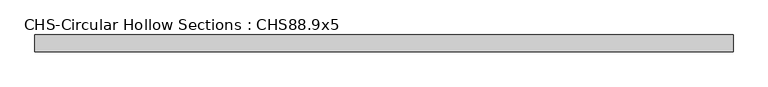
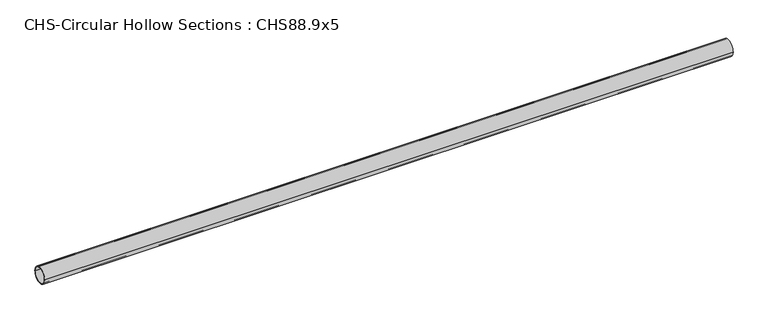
"""IFC4 building model written with IfcOpenShell, lengths in millimetres: beam geometry, CHS-Circular Hollow Sections : CHS88.9x5."""

import ifcopenshell
import ifcopenshell.guid

model = None  # the IFC model being written
_history = None  # IfcOwnerHistory: only IFC2X3 demands one
_inside = {}  # id of a spatial element -> (the spatial element, [elements in it])
_under = {}  # id of a project, library or spatial element -> (it, [spatial elements below it])
_declared = {}  # id of a project -> (the project, [libraries it declares])
_typed = {}  # id of a type object -> (the type object, [elements of that type])
_made_of = {}  # id of a material, layer set ... -> (it, [elements and type objects made of it])


def new_model(schema):
    """Start an empty IFC model of exactly this schema.

    Asked for "IFC4X3", IfcOpenShell would pick the latest addendum, in which some entities
    have other attributes; the version numbers below select the first issue.
    IFC2X3 requires an IfcOwnerHistory on every rooted entity: one is made here for all.
    """
    global model, _history
    if schema == "IFC4X3":
        model = ifcopenshell.file(schema_version=(4, 3, 0, 0))
    else:
        model = ifcopenshell.file(schema=schema)
    _inside.clear()
    _under.clear()
    _declared.clear()
    _typed.clear()
    _made_of.clear()
    _history = None
    if model.schema == "IFC2X3":
        org = make("IfcOrganization", Name="unknown")
        user = make(
            "IfcPersonAndOrganization",
            ThePerson=make("IfcPerson", FamilyName="unknown"),
            TheOrganization=org,
        )
        app = make(
            "IfcApplication",
            ApplicationDeveloper=org,
            Version="unknown",
            ApplicationFullName="unknown",
            ApplicationIdentifier="unknown",
        )
        _history = make(
            "IfcOwnerHistory",
            OwningUser=user,
            OwningApplication=app,
            ChangeAction="ADDED",
            CreationDate=0,
        )
    return model


def make(cls, **values):
    """One entity of the class cls with the attributes given. An attribute that is None is left unset."""
    return model.create_entity(
        cls, **{name: value for name, value in values.items() if value is not None}
    )


def rooted(cls, **values):
    """An entity with a GlobalId (a new one), such as an element, a storey or a relation."""
    return make(cls, GlobalId=ifcopenshell.guid.new(), OwnerHistory=_history, **values)


def si_unit(unit_type, name, prefix=None):
    """IfcSIUnit, for example si_unit("LENGTHUNIT", "METRE", prefix="MILLI")."""
    return make("IfcSIUnit", UnitType=unit_type, Prefix=prefix, Name=name)


def assignment(units):
    """IfcUnitAssignment: the units of a project."""
    return None if units is None else make("IfcUnitAssignment", Units=units)


def point(xyz):
    """IfcCartesianPoint."""
    return None if xyz is None else make("IfcCartesianPoint", Coordinates=xyz)


def direction(xyz):
    """IfcDirection."""
    return None if xyz is None else make("IfcDirection", DirectionRatios=xyz)


def frame(location, z_axis=None, x_axis=None):
    """IfcAxis2Placement3D, a coordinate frame: its origin and axes. An axis left out is left unset."""
    return make(
        "IfcAxis2Placement3D",
        Location=point(location),
        Axis=direction(z_axis),
        RefDirection=direction(x_axis),
    )


def frame_2d(location, x_axis=None):
    """IfcAxis2Placement2D, a coordinate frame in the plane: its origin and x axis."""
    return make(
        "IfcAxis2Placement2D", Location=point(location), RefDirection=direction(x_axis)
    )


def origin():
    """The frame at (0, 0, 0) with its axes left unset."""
    return frame((0.0, 0.0, 0.0))


def origin_2d():
    """The frame at (0, 0) in the plane with its x axis left unset."""
    return frame_2d((0.0, 0.0))


def place(relative_to, where):
    """IfcLocalPlacement: puts the frame where relative to a parent placement (None: the world)."""
    return make(
        "IfcLocalPlacement", PlacementRelTo=relative_to, RelativePlacement=where
    )


def context(
    kind, dimensions, precision=None, world=None, true_north=None, identifier=None
):
    """IfcGeometricRepresentationContext, for example the 3D "Model" context."""
    return make(
        "IfcGeometricRepresentationContext",
        ContextIdentifier=identifier,
        ContextType=kind,
        CoordinateSpaceDimension=dimensions,
        Precision=precision,
        WorldCoordinateSystem=world,
        TrueNorth=true_north,
    )


def project(units=None, contexts=None):
    """IfcProject with its units and contexts."""
    return rooted(
        "IfcProject",
        Name="project",
        RepresentationContexts=contexts,
        UnitsInContext=assignment(units),
    )


def spatial(cls, under=None, at=None, **own):
    """A site, building, storey or space (cls), placed at a placement, below another one or the project."""
    s = rooted(cls, ObjectPlacement=at, **own)
    if under is not None:
        _under.setdefault(under.id(), (under, []))[1].append(s)
    return s


def circle_curve(where, radius):
    """IfcCircle in the frame where."""
    return make("IfcCircle", Position=where, Radius=radius)


def trimmed(basis, trim1, trim2, sense, master):
    """IfcTrimmedCurve: the piece of a basis curve between two trims."""
    return make(
        "IfcTrimmedCurve",
        BasisCurve=basis,
        Trim1=trim1,
        Trim2=trim2,
        SenseAgreement=sense,
        MasterRepresentation=master,
    )


def segment(curve, same_sense, transition):
    """IfcCompositeCurveSegment."""
    return make(
        "IfcCompositeCurveSegment",
        Transition=transition,
        SameSense=same_sense,
        ParentCurve=curve,
    )


def composite_curve(segments, self_intersect=None):
    """IfcCompositeCurve: segments joined end to end."""
    return make("IfcCompositeCurve", Segments=segments, SelfIntersect=self_intersect)


def outline(outer, holes=None, kind="AREA"):
    """IfcArbitraryClosedProfileDef: a profile drawn as a closed curve; with holes, ...WithVoids."""
    if holes is None:
        return make("IfcArbitraryClosedProfileDef", ProfileType=kind, OuterCurve=outer)
    return make(
        "IfcArbitraryProfileDefWithVoids",
        ProfileType=kind,
        OuterCurve=outer,
        InnerCurves=holes,
    )


def extrude(swept, where, along, depth):
    """IfcExtrudedAreaSolid: the profile swept, set in the frame where, extruded along a direction by depth."""
    return make(
        "IfcExtrudedAreaSolid",
        SweptArea=swept,
        Position=where,
        ExtrudedDirection=direction(along),
        Depth=depth,
    )


def shape(context_of_items, identifier, shape_type, items):
    """IfcShapeRepresentation: the items that make up one representation, for example the "Body"."""
    return make(
        "IfcShapeRepresentation",
        ContextOfItems=context_of_items,
        RepresentationIdentifier=identifier,
        RepresentationType=shape_type,
        Items=items,
    )


def source(mapping_origin, context_of_items, identifier, shape_type, items):
    """IfcRepresentationMap: a shape defined once, which mapped items show again and again."""
    return make(
        "IfcRepresentationMap",
        MappingOrigin=mapping_origin,
        MappedRepresentation=shape(context_of_items, identifier, shape_type, items),
    )


def transform(
    local_origin,
    x_axis=None,
    y_axis=None,
    z_axis=None,
    scale=None,
    scale2=None,
    scale3=None,
    uniform=True,
):
    """IfcCartesianTransformationOperator3D, or its non-uniform kind. x_axis, y_axis, z_axis: its Axis1, 2, 3."""
    if uniform:
        return make(
            "IfcCartesianTransformationOperator3D",
            Axis1=direction(x_axis),
            Axis2=direction(y_axis),
            LocalOrigin=point(local_origin),
            Scale=scale,
            Axis3=direction(z_axis),
        )
    return make(
        "IfcCartesianTransformationOperator3DnonUniform",
        Axis1=direction(x_axis),
        Axis2=direction(y_axis),
        LocalOrigin=point(local_origin),
        Scale=scale,
        Axis3=direction(z_axis),
        Scale2=scale2,
        Scale3=scale3,
    )


def mapped(mapping_source, mapping_target):
    """IfcMappedItem: shows the shape of a source again, moved by a transform."""
    return make(
        "IfcMappedItem", MappingSource=mapping_source, MappingTarget=mapping_target
    )


def made_of(thing, what):
    """Note that an element or type object is made of a material, layer set ...; save() writes the relation."""
    if what is not None:
        _made_of.setdefault(what.id(), (what, []))[1].append(thing)
    return thing


def element(
    cls,
    number,
    at=None,
    inside=None,
    cuts=None,
    type_object=None,
    material=None,
    context=None,
    identifier="Body",
    shape_type=None,
    held_by="IfcProductDefinitionShape",
    body=None,
    shapes=None,
    **own,
):
    """One element of the class cls, such as IfcWall. Its Tag is "e" and its number.

    at: its placement. inside: the storey or other place that contains it. cuts: it is an
    opening in that element (IfcRelVoidsElement). A single representation is given by context,
    identifier, shape_type and body (its items); several are given by shapes. held_by: the class
    of the entity that holds the representations. save() writes the other relations.
    """
    e = rooted(cls, Tag="e%d" % number, ObjectPlacement=at, **own)
    if body is not None:
        shapes = [shape(context, identifier, shape_type, body)]
    if shapes is not None:
        e.Representation = make(held_by, Representations=shapes)
    if inside is not None:
        _inside.setdefault(inside.id(), (inside, []))[1].append(e)
    if cuts is not None:
        rooted(
            "IfcRelVoidsElement", RelatingBuildingElement=cuts, RelatedOpeningElement=e
        )
    if type_object is not None:
        _typed.setdefault(type_object.id(), (type_object, []))[1].append(e)
    return made_of(e, material)


def aggregate(whole, parts):
    """IfcRelAggregates: a whole, such as a stair, and the parts it consists of."""
    return rooted("IfcRelAggregates", RelatingObject=whole, RelatedObjects=parts)


def save(model, path):
    """Write the relations noted so far, then the file.

    IfcRelAggregates (storeys below a building ...), IfcRelContainedInSpatialStructure (elements
    in a storey), IfcRelDefinesByType, IfcRelAssociatesMaterial and IfcRelDeclares: one each for
    every whole, place, type object, material and project.
    """
    for whole, parts in _under.values():
        aggregate(whole, parts)
    for where, things in _inside.values():
        rooted(
            "IfcRelContainedInSpatialStructure",
            RelatedElements=things,
            RelatingStructure=where,
        )
    for kind, things in _typed.values():
        rooted("IfcRelDefinesByType", RelatedObjects=things, RelatingType=kind)
    for what, things in _made_of.values():
        rooted("IfcRelAssociatesMaterial", RelatedObjects=things, RelatingMaterial=what)
    for by, libraries in _declared.values():
        rooted("IfcRelDeclares", RelatingContext=by, RelatedDefinitions=libraries)
    model.write(path)


def chs_circular_hollow_sections_chs88_9x5_d913b4f5(model_context):
    return source(origin(), model_context, "Body", "SweptSolid", [
        extrude(outline(composite_curve([segment(trimmed(circle_curve(origin_2d(), 44.45), [point((-44.45, 0.0))], [point((44.45, 0.0))], False, "CARTESIAN"), True, "CONTINUOUS"), segment(trimmed(circle_curve(origin_2d(), 44.45), [point((44.45, 0.0))], [point((-44.45, 0.0))], False, "CARTESIAN"), True, "CONTINUOUS")], self_intersect=False), holes=[composite_curve([segment(trimmed(circle_curve(origin_2d(), 39.45), [point((39.45, 0.0))], [point((-39.45, 0.0))], True, "CARTESIAN"), True, "CONTINUOUS"), segment(trimmed(circle_curve(origin_2d(), 39.45), [point((-39.45, 0.0))], [point((39.45, 0.0))], True, "CARTESIAN"), True, "CONTINUOUS")], self_intersect=False)]), frame((-1917.5, 0.0, 0.0), z_axis=(1.0, 0.0, 0.0), x_axis=(0.0, 1.0, 0.0)), (0.0, 0.0, 1.0), 3679.0),
    ])


if __name__ == "__main__":
    model = new_model("IFC4")
    model_context = context("Model", 3, world=origin())
    ifc_project = project(units=[si_unit("LENGTHUNIT", "METRE", prefix="MILLI")], contexts=[model_context])
    site = spatial("IfcSite", under=ifc_project)
    building = spatial("IfcBuilding", under=site)
    placement = place(None, origin())
    chs_circular_hollow_sections_chs88_9x5_shape = chs_circular_hollow_sections_chs88_9x5_d913b4f5(model_context)
    element("IfcBeam", 1, ObjectType="CHS-Circular Hollow Sections : CHS88.9x5", at=placement, inside=building, context=model_context, shape_type="MappedRepresentation", body=[
        mapped(chs_circular_hollow_sections_chs88_9x5_shape, transform((0.0, 0.0, 0.0), x_axis=(1.0, 0.0, 0.0), y_axis=(0.0, 1.0, 0.0), z_axis=(0.0, 0.0, 1.0))),
    ])
    save(model, "model.ifc")
